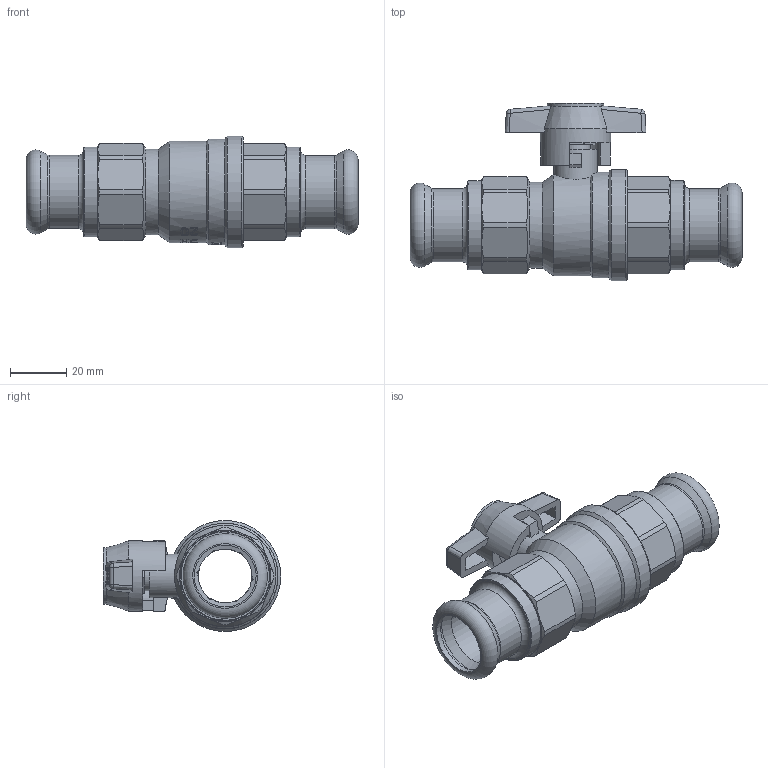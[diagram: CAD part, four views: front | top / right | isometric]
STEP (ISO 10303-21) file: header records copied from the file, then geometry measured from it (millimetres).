
FILE_DESCRIPTION((''),'2;1');
FILE_NAME('P:\Fastrack\53972_CRANE 3D\Press Fit\HATTERSLEY\100TH-PF\22MM\Fig_100TH-PF-22MM.stp','2011-12-08T14:27:25',('dcole'),(''),'Autodesk Inventor 2008','Autodesk Inventor 2008','');
FILE_SCHEMA(('AUTOMOTIVE_DESIGN { 1 0 10303 214 1 1 1 1 }'));
Length unit declared in the file: millimetre
Products named in the file (1): Fig_100TH-PF-22MM
Bounding box: 117.9 x 63.05 x 39.5 mm (x, y, z)
Volume: 49031 mm3; surface area: 33493.7 mm2
Topology: 1 solids, 6 shells, 650 faces, 1760 edges, 1177 vertices
Faces by surface type: plane 331, bspline 118, cylinder 97, cone 83, torus 15, sphere 6
Full cylindrical faces by diameter (mm): 2 x2, 8 x1, 8.1 x2, 8.3 x1, 9 x1, 9.5 x1, 10.5 x1, 10.6 x1, 10.75 x1, 15.5 x1, 18 x1, 20 x3, 22 x4, 23.5 x2, 24.117 x2, 25 x1, 26 x2, 27 x2, 27.45 x2, 30.5 x1, 31.8 x2, 32.5 x1, 34 x1, 34.2 x1, 36 x1, 37.5 x1, 39.5 x1
Entity records: 38538 total; most frequent: CARTESIAN_POINT 23154, ORIENTED_EDGE 3240, DIRECTION 2654, EDGE_CURVE 1620, VERTEX_POINT 1134, AXIS2_PLACEMENT_3D 927, EDGE_LOOP 825, VECTOR 800
